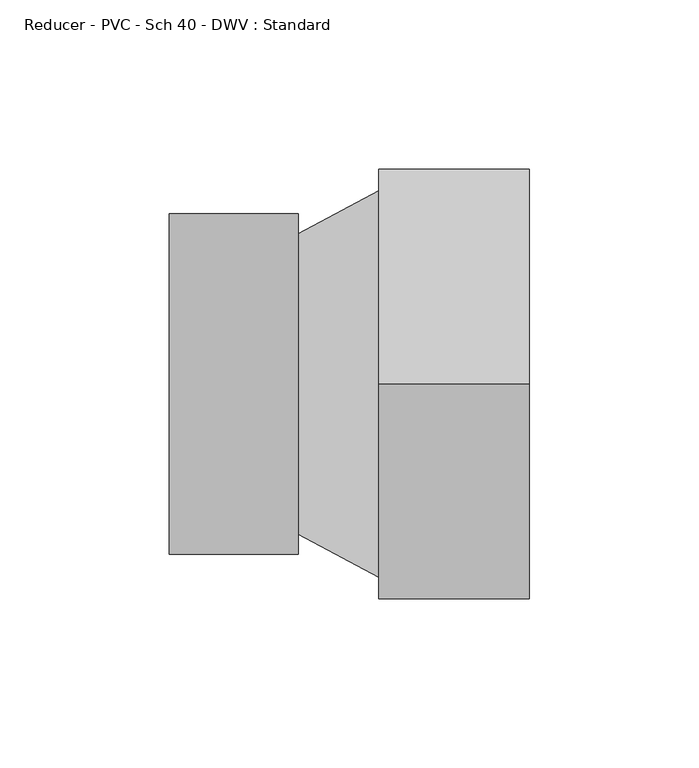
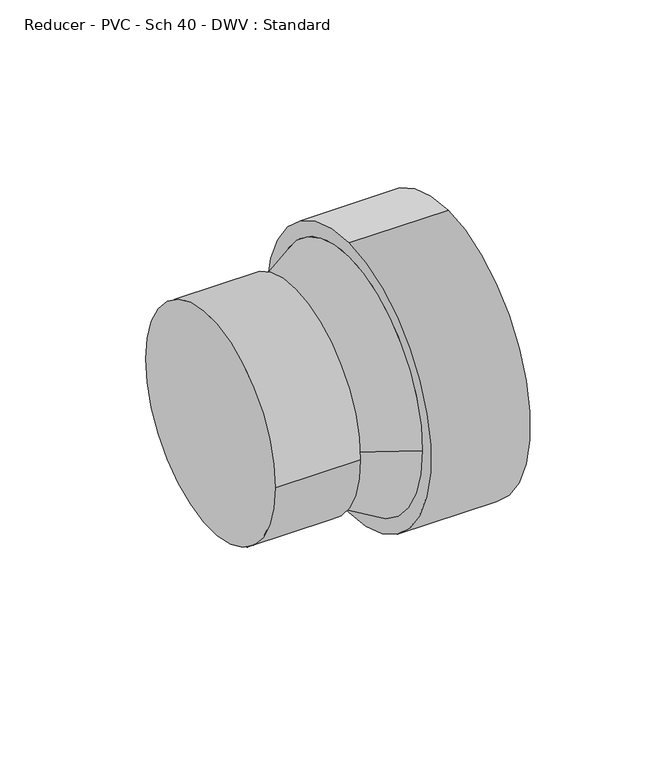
"""IFC4 building model written with IfcOpenShell, lengths in millimetres: pipe fitting geometry, Reducer - PVC - Sch 40 - DWV : Standard."""

from ifc_helpers import new_model, si_unit, frame, origin, place, context, project, spatial, polyline, circle_curve, source, transform, mapped, element, save
from ifc_brep_helpers import plane_surface, cylinder_surface, revolved_surface, advanced_brep


def reducer_pvc_sch_40_dwv_standard_bc2808fd(model_context):
    return source(origin(), model_context, "Body", "AdvancedBrep", [
        advanced_brep(
        [(0.0, -50.2666, 0.0), (0.0, 50.2666, 0.0), (38.1, -50.2666, 0.0), (38.1, 50.2666, 0.0), (38.1, 44.45, 0.0), (38.1, -44.45, 0.0), (61.9252, 57.15, 0.0), (61.9252, -57.15, 0.0), (61.9252, 0.0, 63.754), (61.9252, 0.0, -63.754), (106.3752, 0.0, 63.754), (106.3752, 0.0, -63.754)],
        [
            (0, 1, circle_curve(frame((0.0, 0.0, 0.0), z_axis=(-1.0, 0.0, 0.0), x_axis=(0.0, 1.0, 0.0)), 50.2666)),
            (1, 0, circle_curve(frame((0.0, 0.0, 0.0), z_axis=(-1.0, 0.0, 0.0), x_axis=(0.0, 1.0, 0.0)), 50.2666)),
            (2, 3, circle_curve(frame((38.1, 0.0, 0.0), z_axis=(1.0, 0.0, 0.0), x_axis=(0.0, 1.0, 0.0)), 50.2666)),
            (3, 2, circle_curve(frame((38.1, 0.0, 0.0), z_axis=(1.0, 0.0, 0.0), x_axis=(0.0, 1.0, 0.0)), 50.2666)),
            (4, 5, circle_curve(frame((38.1, 0.0, 0.0), z_axis=(-1.0, 0.0, 0.0), x_axis=(0.0, -1.0, 0.0)), 44.45)),
            (5, 4, circle_curve(frame((38.1, 0.0, 0.0), z_axis=(-1.0, 0.0, 0.0), x_axis=(0.0, 1.0, 0.0)), 44.45)),
            (0, 2),
            (3, 1),
            (4, 6),
            (6, 7, circle_curve(frame((61.9252, 0.0, 0.0), z_axis=(-1.0, 0.0, 0.0), x_axis=(0.0, -1.0, 0.0)), 57.15)),
            (7, 5),
            (7, 6, circle_curve(frame((61.9252, 0.0, 0.0), z_axis=(-1.0, 0.0, 0.0), x_axis=(0.0, 1.0, 0.0)), 57.15)),
            (8, 9, circle_curve(frame((61.9252, 0.0, 0.0), z_axis=(-1.0, 0.0, 0.0), x_axis=(0.0, 0.0, -1.0)), 63.754)),
            (9, 8, circle_curve(frame((61.9252, 0.0, 0.0), z_axis=(-1.0, 0.0, 0.0), x_axis=(0.0, 0.0, -1.0)), 63.754)),
            (10, 11, circle_curve(frame((106.3752, 0.0, 0.0), z_axis=(1.0, 0.0, 0.0), x_axis=(0.0, 0.0, -1.0)), 63.754)),
            (11, 10, circle_curve(frame((106.3752, 0.0, 0.0), z_axis=(1.0, 0.0, 0.0), x_axis=(0.0, 0.0, -1.0)), 63.754)),
            (8, 10),
            (11, 9),
        ],
        [
            plane_surface(frame((0.0, 0.0, 0.0), z_axis=(-1.0, 0.0, 0.0), x_axis=(0.0, 0.0, 1.0))),
            plane_surface(frame((38.1, 0.0, 0.0), z_axis=(1.0, 0.0, 0.0), x_axis=(0.0, 0.0, 1.0))),
            cylinder_surface(frame((0.0, 0.0, 0.0), z_axis=(-1.0, 0.0, 0.0), x_axis=(0.0, 1.0, 0.0)), 50.2666),
            revolved_surface(polyline([(38.10000000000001, 44.45, 0.0), (61.925200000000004, 57.15, 0.0)]), (-45.2882, 0.0, 0.0), (1.0, 0.0, 0.0)),
            plane_surface(frame((61.9252, 0.0, 0.0), z_axis=(-1.0, 0.0, 0.0), x_axis=(0.0, 1.0, 0.0))),
            plane_surface(frame((106.3752, 0.0, 0.0), z_axis=(1.0, 0.0, 0.0), x_axis=(0.0, 1.0, 0.0))),
            cylinder_surface(frame((61.9252, 0.0, 0.0), z_axis=(-1.0, 0.0, 0.0), x_axis=(0.0, 0.0, -1.0)), 63.754),
        ],
        [
            (0, [[1, 2]]),
            (1, [[3, 4], [5, 6]]),
            (2, [[-1, 7, -4, 8]]),
            (2, [[-2, -8, -3, -7]]),
            (3, [[9, 10, 11, -5]]),
            (3, [[-9, -6, -11, 12]]),
            (4, [[13, 14], [-10, -12]]),
            (5, [[15, 16]]),
            (6, [[-13, 17, -16, 18]]),
            (6, [[-14, -18, -15, -17]]),
        ],
    ),
    ])


if __name__ == "__main__":
    model = new_model("IFC4")
    model_context = context("Model", 3, world=origin())
    ifc_project = project(units=[si_unit("LENGTHUNIT", "METRE", prefix="MILLI")], contexts=[model_context])
    site = spatial("IfcSite", under=ifc_project)
    building = spatial("IfcBuilding", under=site)
    placement = place(None, origin())
    reducer_pvc_sch_40_dwv_standard_shape = reducer_pvc_sch_40_dwv_standard_bc2808fd(model_context)
    element("IfcPipeFitting", 1, ObjectType="Reducer - PVC - Sch 40 - DWV : Standard", at=placement, inside=building, context=model_context, shape_type="MappedRepresentation", body=[
        mapped(reducer_pvc_sch_40_dwv_standard_shape, transform((0.0, 0.0, 0.0), x_axis=(1.0, 0.0, 0.0), y_axis=(0.0, 1.0, 0.0), z_axis=(0.0, 0.0, 1.0))),
    ])
    save(model, "model.ifc")
